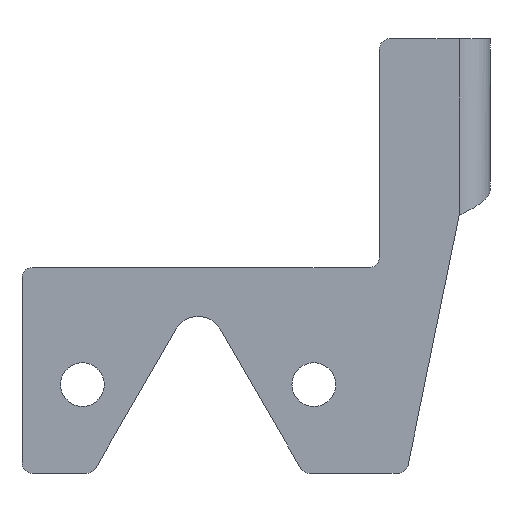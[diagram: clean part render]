
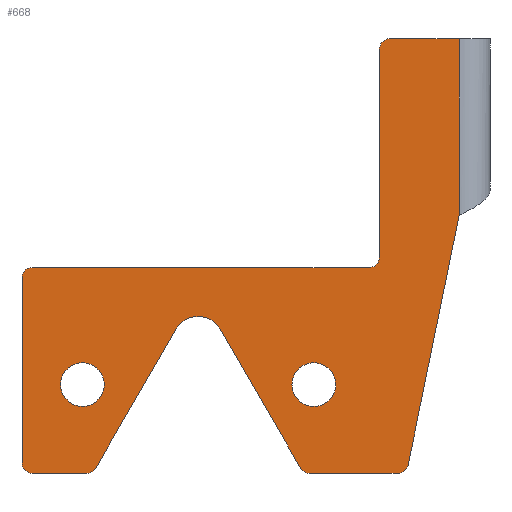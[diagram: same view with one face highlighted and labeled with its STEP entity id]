
A CAD part, front view. The second image highlights one B-rep face of the part: STEP entity #668.
In plain terms, the highlighted planar face has unit normal (0, -1, 0).
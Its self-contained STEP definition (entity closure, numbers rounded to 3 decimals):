
#22=FACE_BOUND('',#119,.T.);
#23=FACE_BOUND('',#120,.T.);
#42=PLANE('',#756);
#78=FACE_OUTER_BOUND('',#118,.T.);
#118=EDGE_LOOP('',(#597,#598,#599,#600,#601,#602,#603,#604,#605,#606,#607,
#608,#609,#610,#611,#612,#613,#614));
#119=EDGE_LOOP('',(#615));
#120=EDGE_LOOP('',(#616));
#141=LINE('',#1013,#203);
#149=LINE('',#1075,#211);
#162=LINE('',#1127,#224);
#165=LINE('',#1135,#227);
#168=LINE('',#1143,#230);
#171=LINE('',#1151,#233);
#174=LINE('',#1159,#236);
#177=LINE('',#1167,#239);
#180=LINE('',#1175,#242);
#182=LINE('',#1181,#244);
#203=VECTOR('',#817,10.);
#211=VECTOR('',#837,10.);
#224=VECTOR('',#886,10.);
#227=VECTOR('',#895,10.);
#230=VECTOR('',#904,10.);
#233=VECTOR('',#913,10.);
#236=VECTOR('',#922,10.);
#239=VECTOR('',#931,10.);
#242=VECTOR('',#940,10.);
#244=VECTOR('',#948,10.);
#265=CIRCLE('',#729,4.25);
#266=CIRCLE('',#731,4.25);
#267=CIRCLE('',#733,2.);
#268=CIRCLE('',#736,2.);
#269=CIRCLE('',#739,2.);
#270=CIRCLE('',#742,2.);
#271=CIRCLE('',#745,2.);
#272=CIRCLE('',#748,5.);
#273=CIRCLE('',#751,2.);
#274=CIRCLE('',#754,2.);
#295=VERTEX_POINT('',#1010);
#296=VERTEX_POINT('',#1012);
#300=VERTEX_POINT('',#1073);
#318=VERTEX_POINT('',#1113);
#319=VERTEX_POINT('',#1117);
#320=VERTEX_POINT('',#1121);
#321=VERTEX_POINT('',#1125);
#322=VERTEX_POINT('',#1129);
#323=VERTEX_POINT('',#1133);
#324=VERTEX_POINT('',#1137);
#325=VERTEX_POINT('',#1141);
#326=VERTEX_POINT('',#1145);
#327=VERTEX_POINT('',#1149);
#328=VERTEX_POINT('',#1153);
#329=VERTEX_POINT('',#1157);
#330=VERTEX_POINT('',#1161);
#331=VERTEX_POINT('',#1165);
#332=VERTEX_POINT('',#1169);
#333=VERTEX_POINT('',#1173);
#334=VERTEX_POINT('',#1177);
#364=EDGE_CURVE('',#296,#295,#141,.T.);
#375=EDGE_CURVE('',#300,#295,#149,.T.);
#394=EDGE_CURVE('',#318,#318,#265,.T.);
#396=EDGE_CURVE('',#319,#319,#266,.T.);
#399=EDGE_CURVE('',#320,#300,#267,.T.);
#401=EDGE_CURVE('',#321,#320,#162,.T.);
#403=EDGE_CURVE('',#322,#321,#268,.T.);
#405=EDGE_CURVE('',#323,#322,#165,.T.);
#407=EDGE_CURVE('',#324,#323,#269,.T.);
#409=EDGE_CURVE('',#325,#324,#168,.T.);
#411=EDGE_CURVE('',#326,#325,#270,.T.);
#413=EDGE_CURVE('',#327,#326,#171,.T.);
#415=EDGE_CURVE('',#328,#327,#271,.T.);
#417=EDGE_CURVE('',#329,#328,#174,.T.);
#419=EDGE_CURVE('',#330,#329,#272,.T.);
#421=EDGE_CURVE('',#331,#330,#177,.T.);
#423=EDGE_CURVE('',#332,#331,#273,.T.);
#425=EDGE_CURVE('',#333,#332,#180,.T.);
#427=EDGE_CURVE('',#334,#333,#274,.T.);
#428=EDGE_CURVE('',#296,#334,#182,.T.);
#597=ORIENTED_EDGE('',*,*,#364,.T.);
#598=ORIENTED_EDGE('',*,*,#375,.F.);
#599=ORIENTED_EDGE('',*,*,#399,.F.);
#600=ORIENTED_EDGE('',*,*,#401,.F.);
#601=ORIENTED_EDGE('',*,*,#403,.F.);
#602=ORIENTED_EDGE('',*,*,#405,.F.);
#603=ORIENTED_EDGE('',*,*,#407,.F.);
#604=ORIENTED_EDGE('',*,*,#409,.F.);
#605=ORIENTED_EDGE('',*,*,#411,.F.);
#606=ORIENTED_EDGE('',*,*,#413,.F.);
#607=ORIENTED_EDGE('',*,*,#415,.F.);
#608=ORIENTED_EDGE('',*,*,#417,.F.);
#609=ORIENTED_EDGE('',*,*,#419,.F.);
#610=ORIENTED_EDGE('',*,*,#421,.F.);
#611=ORIENTED_EDGE('',*,*,#423,.F.);
#612=ORIENTED_EDGE('',*,*,#425,.F.);
#613=ORIENTED_EDGE('',*,*,#427,.F.);
#614=ORIENTED_EDGE('',*,*,#428,.F.);
#615=ORIENTED_EDGE('',*,*,#394,.T.);
#616=ORIENTED_EDGE('',*,*,#396,.T.);
#668=ADVANCED_FACE('',(#78,#22,#23),#42,.F.);
#729=AXIS2_PLACEMENT_3D('',#1114,#870,#871);
#731=AXIS2_PLACEMENT_3D('',#1118,#875,#876);
#733=AXIS2_PLACEMENT_3D('',#1123,#881,#882);
#736=AXIS2_PLACEMENT_3D('',#1131,#890,#891);
#739=AXIS2_PLACEMENT_3D('',#1139,#899,#900);
#742=AXIS2_PLACEMENT_3D('',#1147,#908,#909);
#745=AXIS2_PLACEMENT_3D('',#1155,#917,#918);
#748=AXIS2_PLACEMENT_3D('',#1163,#926,#927);
#751=AXIS2_PLACEMENT_3D('',#1171,#935,#936);
#754=AXIS2_PLACEMENT_3D('',#1179,#944,#945);
#756=AXIS2_PLACEMENT_3D('',#1182,#949,#950);
#817=DIRECTION('',(0.,0.,1.));
#837=DIRECTION('',(1.,0.,0.));
#870=DIRECTION('center_axis',(0.,1.,0.));
#871=DIRECTION('ref_axis',(1.,0.,0.));
#875=DIRECTION('center_axis',(0.,1.,0.));
#876=DIRECTION('ref_axis',(1.,0.,0.));
#881=DIRECTION('center_axis',(0.,1.,0.));
#882=DIRECTION('ref_axis',(-1.,0.,0.));
#886=DIRECTION('',(0.,0.,1.));
#890=DIRECTION('center_axis',(0.,-1.,0.));
#891=DIRECTION('ref_axis',(-1.,0.,0.));
#895=DIRECTION('',(1.,0.,0.));
#899=DIRECTION('center_axis',(0.,1.,0.));
#900=DIRECTION('ref_axis',(-1.,0.,0.));
#904=DIRECTION('',(0.,0.,1.));
#908=DIRECTION('center_axis',(0.,1.,0.));
#909=DIRECTION('ref_axis',(0.,0.,-1.));
#913=DIRECTION('',(-1.,0.,0.));
#917=DIRECTION('center_axis',(0.,1.,0.));
#918=DIRECTION('ref_axis',(0.866,0.,-0.5));
#922=DIRECTION('',(-0.5,0.,-0.866));
#926=DIRECTION('center_axis',(0.,-1.,0.));
#927=DIRECTION('ref_axis',(0.866,0.,-0.5));
#931=DIRECTION('',(-0.5,0.,0.866));
#935=DIRECTION('center_axis',(0.,1.,0.));
#936=DIRECTION('ref_axis',(0.,0.,-1.));
#940=DIRECTION('',(-1.,0.,0.));
#944=DIRECTION('center_axis',(0.,1.,0.));
#945=DIRECTION('ref_axis',(0.98,0.,-0.2));
#948=DIRECTION('',(-0.2,0.,-0.98));
#949=DIRECTION('center_axis',(0.,1.,0.));
#950=DIRECTION('ref_axis',(0.,0.,1.));
#1010=CARTESIAN_POINT('',(85.,0.,84.5));
#1012=CARTESIAN_POINT('',(85.,0.,50.111));
#1013=CARTESIAN_POINT('',(85.,0.,42.453));
#1073=CARTESIAN_POINT('',(71.5,0.,84.5));
#1075=CARTESIAN_POINT('',(71.5,0.,84.5));
#1113=CARTESIAN_POINT('',(52.5,0.,17.25));
#1114=CARTESIAN_POINT('Origin',(56.75,0.,17.25));
#1117=CARTESIAN_POINT('',(7.5,0.,17.25));
#1118=CARTESIAN_POINT('Origin',(11.75,0.,17.25));
#1121=CARTESIAN_POINT('',(69.5,0.,82.5));
#1123=CARTESIAN_POINT('Origin',(71.5,0.,82.5));
#1125=CARTESIAN_POINT('',(69.5,0.,42.));
#1127=CARTESIAN_POINT('',(69.5,0.,42.));
#1129=CARTESIAN_POINT('',(67.5,0.,40.));
#1131=CARTESIAN_POINT('Origin',(67.5,0.,42.));
#1133=CARTESIAN_POINT('',(2.,0.,40.));
#1135=CARTESIAN_POINT('',(2.,0.,40.));
#1137=CARTESIAN_POINT('',(0.,0.,38.));
#1139=CARTESIAN_POINT('Origin',(2.,0.,38.));
#1141=CARTESIAN_POINT('',(0.,0.,2.));
#1143=CARTESIAN_POINT('',(0.,0.,2.));
#1145=CARTESIAN_POINT('',(2.,0.,0.));
#1147=CARTESIAN_POINT('Origin',(2.,0.,2.));
#1149=CARTESIAN_POINT('',(12.595,0.,0.));
#1151=CARTESIAN_POINT('',(12.595,0.,0.));
#1153=CARTESIAN_POINT('',(14.327,0.,1.));
#1155=CARTESIAN_POINT('Origin',(12.595,0.,2.));
#1157=CARTESIAN_POINT('',(29.92,0.,28.007));
#1159=CARTESIAN_POINT('',(29.92,0.,28.007));
#1161=CARTESIAN_POINT('',(38.58,0.,28.007));
#1163=CARTESIAN_POINT('Origin',(34.25,0.,25.507));
#1165=CARTESIAN_POINT('',(54.173,0.,1.));
#1167=CARTESIAN_POINT('',(54.173,0.,1.));
#1169=CARTESIAN_POINT('',(55.905,0.,0.));
#1171=CARTESIAN_POINT('Origin',(55.905,0.,2.));
#1173=CARTESIAN_POINT('',(73.118,0.,0.));
#1175=CARTESIAN_POINT('',(73.118,0.,0.));
#1177=CARTESIAN_POINT('',(75.077,0.,1.599));
#1179=CARTESIAN_POINT('Origin',(73.118,0.,2.));
#1181=CARTESIAN_POINT('',(85.673,0.,53.401));
#1182=CARTESIAN_POINT('Origin',(49.413,0.,34.794));
